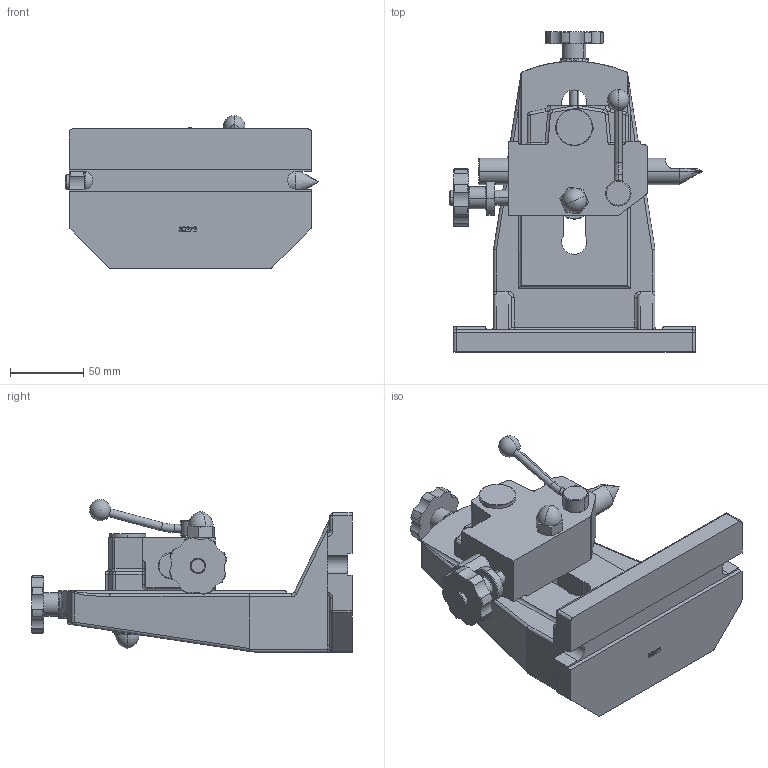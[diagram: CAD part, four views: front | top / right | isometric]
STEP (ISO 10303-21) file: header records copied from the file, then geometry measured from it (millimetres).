
FILE_DESCRIPTION (( 'STEP AP214' ), '1' );
FILE_NAME ('30272 TAILSTOCK ASSY.STEP', '2013-11-07T20:16:58', ( '' ), ( '' ), 'SwSTEP 2.0', 'SolidWorks 2012', '' );
FILE_SCHEMA (( 'AUTOMOTIVE_DESIGN' ));
Length unit declared in the file: millimetre
Products named in the file (10): 30272 TAILSTOCK ASSY; 30272 BASE; 30272 TOP KNOB_60965K52; 30272 HANDLE WITH STUD_6875K312; 30272 M10 ACORN_91880A056; 30272 M10 HEAVY FLAT WASHER_98035A106; 30272 CENTER KNOB; 30272 STUD; 30272 CENTER; 30272 SLIDE
Assembly tree (11 placements, depth 2):
  30272 TAILSTOCK ASSY
    30272 BASE
    30272 SLIDE
    30272 CENTER
    30272 STUD  x2
    30272 CENTER KNOB
    30272 M10 HEAVY FLAT WASHER_98035A106
    30272 M10 ACORN_91880A056  x2
    30272 HANDLE WITH STUD_6875K312
    30272 TOP KNOB_60965K52
Bounding box: 172.4 x 218 x 104.17 mm (x, y, z)
Volume: 872031.2 mm3; surface area: 156123.5 mm2
Topology: 11 solids, 11 shells, 546 faces, 1346 edges, 818 vertices
Faces by surface type: cylinder 200, plane 134, cone 88, bspline 63, torus 39, sphere 22
Entity records: 20211 total; most frequent: CARTESIAN_POINT 7678, ORIENTED_EDGE 2468, DIRECTION 2408, EDGE_CURVE 1234, AXIS2_PLACEMENT_3D 956, VERTEX_POINT 765, EDGE_LOOP 537, FACE_OUTER_BOUND 506
